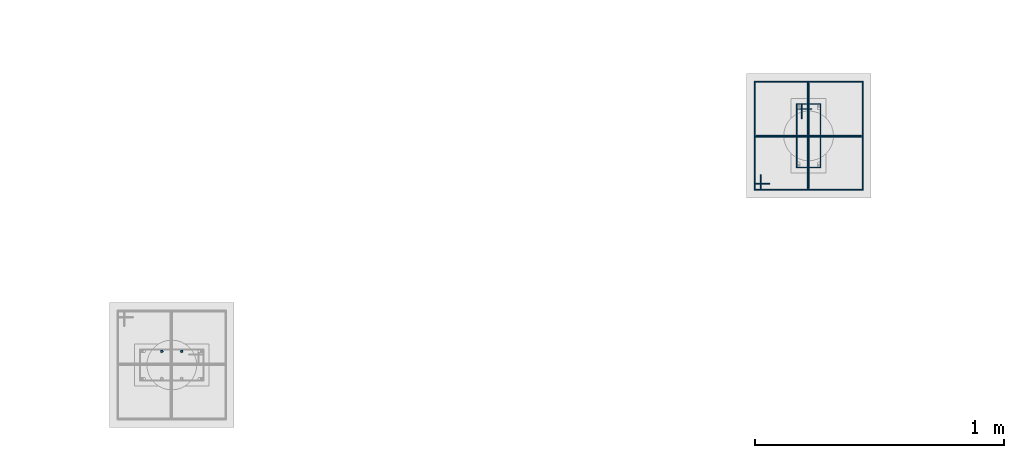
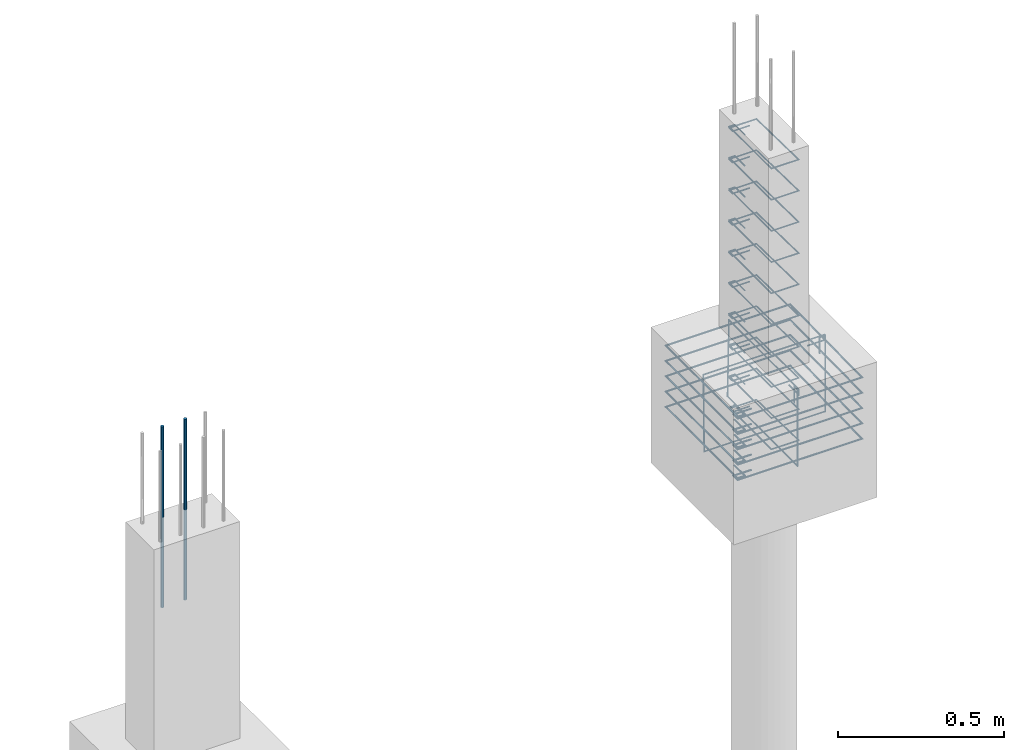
# One storey, part 112 of 119: 19 reinforcing bars.
"""IFC4 building model written with IfcOpenShell, lengths in centimetres."""

from ifc_helpers import new_model, entity, si_unit, derived_unit, frame, origin_with_axes, place, context, project, spatial, source, transform, mapped, element, save


model = new_model("IFC4")

# Units and contexts
model_context = context("Model", 3, precision=1e-05, world=origin_with_axes(), identifier="Body")
ifc_project = project(units=[si_unit("LENGTHUNIT", "METRE", prefix="CENTI"), si_unit("VOLUMEUNIT", "CUBIC_METRE"), si_unit("AREAUNIT", "SQUARE_METRE"), si_unit("POWERUNIT", "WATT"), si_unit("LUMINOUSFLUXUNIT", "LUMEN"), si_unit("ELECTRICCURRENTUNIT", "AMPERE"), si_unit("PRESSUREUNIT", "PASCAL", prefix="KILO"), si_unit("MASSUNIT", "GRAM", prefix="KILO"), si_unit("PLANEANGLEUNIT", "RADIAN"), derived_unit("VOLUMETRICFLOWRATEUNIT", [(si_unit("LENGTHUNIT", "METRE"), 3), (si_unit("TIMEUNIT", "SECOND"), -1)])], contexts=[model_context])

# Site, building, storey
site_placement = place(None, frame((-4000.0, 0.0, 0.0), z_axis=(0.0, 0.0, 1.0), x_axis=(1.0, 0.0, 0.0)))
site = spatial("IfcSite", under=ifc_project, at=site_placement, Name="PADRÃO")
building_placement = place(site_placement, frame((0.0, 0.0, -14.0)))
building = spatial("IfcBuilding", under=site, at=building_placement, Name="CRECHE PRÉ-ESCOLA TIPO 2")
storey_placement = place(building_placement, origin_with_axes())
storey = spatial("IfcBuildingStorey", under=building, at=storey_placement, Name="FUNDAÇÃO", CompositionType="ELEMENT", Elevation=-14.0)

# Reinforcing bars
shared_shape_1 = source(origin_with_axes(), model_context, "Body", "AdvancedSweptSolid", [
    entity("IfcSweptDiskSolid", entity("IfcCompositeCurve", [entity("IfcCompositeCurveSegment", "CONTINUOUS", True, entity("IfcPolyline", [entity("IfcCartesianPoint", [4.25, 21.75, 0.0]), entity("IfcCartesianPoint", [4.25, 27.75, 0.0])])), entity("IfcCompositeCurveSegment", "CONTINUOUS", True, entity("IfcPolyline", [entity("IfcCartesianPoint", [4.25, 27.75, 0.0]), entity("IfcCartesianPoint", [2.25, 27.75, 0.0])])), entity("IfcCompositeCurveSegment", "CONTINUOUS", True, entity("IfcPolyline", [entity("IfcCartesianPoint", [2.25, 27.75, 0.0]), entity("IfcCartesianPoint", [2.25, 2.25, 0.0])])), entity("IfcCompositeCurveSegment", "CONTINUOUS", True, entity("IfcPolyline", [entity("IfcCartesianPoint", [2.25, 2.25, 0.0]), entity("IfcCartesianPoint", [11.75, 2.25, 0.0])])), entity("IfcCompositeCurveSegment", "CONTINUOUS", True, entity("IfcPolyline", [entity("IfcCartesianPoint", [11.75, 2.25, 0.0]), entity("IfcCartesianPoint", [11.75, 27.75, -0.5])])), entity("IfcCompositeCurveSegment", "CONTINUOUS", True, entity("IfcPolyline", [entity("IfcCartesianPoint", [11.75, 27.75, -0.5]), entity("IfcCartesianPoint", [2.25, 27.75, -0.5])])), entity("IfcCompositeCurveSegment", "CONTINUOUS", True, entity("IfcPolyline", [entity("IfcCartesianPoint", [2.25, 27.75, -0.5]), entity("IfcCartesianPoint", [2.25, 25.75, -0.5])])), entity("IfcCompositeCurveSegment", "CONTINUOUS", True, entity("IfcPolyline", [entity("IfcCartesianPoint", [2.25, 25.75, -0.5]), entity("IfcCartesianPoint", [8.25, 25.75, -0.5])]))], False), 0.25),
])
for number, where, z_axis, x_axis, name in (
    (1, (2515.5, 4062.02, -109.25), (0.0, 0.0, 1.0), (1.0, 0.0, 0.0), "P20 - Estribo"),
    (2, (2515.5, 4062.02, -28.75), (0.0, 0.0, 1.0), (1.0, 0.0, 0.0), "P20 - Estribo"),
    (3, (2515.5, 4062.02, -40.25), (0.0, 0.0, 1.0), (1.0, 0.0, 0.0), "P20 - Estribo"),
    (4, (2515.5, 4062.02, -51.75), (0.0, 0.0, 1.0), (1.0, 0.0, 0.0), "P20 - Estribo"),
    (5, (2515.5, 4062.02, -63.25), (0.0, 0.0, 1.0), (1.0, 0.0, 0.0), "P20 - Estribo"),
    (6, (2515.5, 4062.02, -74.75), (0.0, 0.0, 1.0), (1.0, 0.0, 0.0), "P20 - Estribo"),
    (7, (2515.5, 4062.02, -5.75), (0.0, 0.0, 1.0), (1.0, 0.0, 0.0), "P20 - Estribo"),
    (8, (2515.5, 4062.02, -86.25), (0.0, 0.0, 1.0), (1.0, 0.0, 0.0), "P20 - Estribo"),
    (9, (2515.5, 4062.02, -97.75), (0.0, 0.0, 1.0), (1.0, 0.0, 0.0), "P20 - Estribo"),
    (10, (2515.5, 4062.02, -17.25), (0.0, 0.0, 1.0), (1.0, 0.0, 0.0), "P20 - Estribo"),
):
    element("IfcReinforcingBar", number, at=place(storey_placement, frame(where, z_axis=z_axis, x_axis=x_axis)), inside=storey, Name=name, BarLength=0.0, CrossSectionArea=1.9634954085e-05, NominalDiameter=0.5, PredefinedType="MAIN", context=model_context, shape_type="MappedRepresentation", body=[
        mapped(shared_shape_1, transform((0.0, 0.0, 0.0), scale=1.0)),
    ])
shared_shape_2 = source(origin_with_axes(), model_context, "Body", "AdvancedSweptSolid", [
    entity("IfcSweptDiskSolid", entity("IfcCompositeCurve", [entity("IfcCompositeCurveSegment", "CONTINUOUS", True, entity("IfcPolyline", [entity("IfcCartesianPoint", [2507.075, 4057.855, 0.0]), entity("IfcCartesianPoint", [2500.815, 4057.855, 0.0])])), entity("IfcCompositeCurveSegment", "CONTINUOUS", True, entity("IfcPolyline", [entity("IfcCartesianPoint", [2500.815, 4057.855, 0.0]), entity("IfcCartesianPoint", [2500.815, 4055.335, 0.0])])), entity("IfcCompositeCurveSegment", "CONTINUOUS", True, entity("IfcPolyline", [entity("IfcCartesianPoint", [2500.815, 4055.335, 0.0]), entity("IfcCartesianPoint", [2544.185, 4055.335, 0.0])])), entity("IfcCompositeCurveSegment", "CONTINUOUS", True, entity("IfcPolyline", [entity("IfcCartesianPoint", [2544.185, 4055.335, 0.0]), entity("IfcCartesianPoint", [2544.185, 4098.705, 0.63])])), entity("IfcCompositeCurveSegment", "CONTINUOUS", True, entity("IfcPolyline", [entity("IfcCartesianPoint", [2544.185, 4098.705, 0.63]), entity("IfcCartesianPoint", [2500.815, 4098.705, 0.63])])), entity("IfcCompositeCurveSegment", "CONTINUOUS", True, entity("IfcPolyline", [entity("IfcCartesianPoint", [2500.815, 4098.705, 0.63]), entity("IfcCartesianPoint", [2500.815, 4055.335, 0.63])])), entity("IfcCompositeCurveSegment", "CONTINUOUS", True, entity("IfcPolyline", [entity("IfcCartesianPoint", [2500.815, 4055.335, 0.63]), entity("IfcCartesianPoint", [2503.335, 4055.335, 0.63])])), entity("IfcCompositeCurveSegment", "CONTINUOUS", True, entity("IfcPolyline", [entity("IfcCartesianPoint", [2503.335, 4055.335, 0.63]), entity("IfcCartesianPoint", [2503.335, 4061.595, 0.63])]))], False), 0.315),
])
for number, where, z_axis, x_axis, name in (
    (11, (0.0, 0.0, -109.175), (0.0, 0.0, 1.0), (1.0, 0.0, 0.0), "P20 - Blocos (estribos)"),
    (12, (0.0, 0.0, -86.575), (0.0, 0.0, 1.0), (1.0, 0.0, 0.0), "P20 - Blocos (estribos)"),
    (13, (0.0, 0.0, -92.225), (0.0, 0.0, 1.0), (1.0, 0.0, 0.0), "P20 - Blocos (estribos)"),
    (14, (0.0, 0.0, -97.875), (0.0, 0.0, 1.0), (1.0, 0.0, 0.0), "P20 - Blocos (estribos)"),
    (15, (0.0, 0.0, -103.525), (0.0, 0.0, 1.0), (1.0, 0.0, 0.0), "P20 - Blocos (estribos)"),
):
    element("IfcReinforcingBar", number, at=place(storey_placement, frame(where, z_axis=z_axis, x_axis=x_axis)), inside=storey, Name=name, BarLength=0.0, CrossSectionArea=3.1172453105e-05, NominalDiameter=0.63, PredefinedType="MAIN", context=model_context, shape_type="MappedRepresentation", body=[
        mapped(shared_shape_2, transform((0.0, 0.0, 0.0), scale=1.0)),
    ])
shared_shape_3 = source(origin_with_axes(), model_context, "Body", "AdvancedSweptSolid", [
    entity("IfcSweptDiskSolid", entity("IfcCompositeCurve", [entity("IfcCompositeCurveSegment", "CONTINUOUS", True, entity("IfcPolyline", [entity("IfcCartesianPoint", [-15.12, -12.0, 0.0]), entity("IfcCartesianPoint", [-21.12, -12.0, 0.0])])), entity("IfcCompositeCurveSegment", "CONTINUOUS", True, entity("IfcPolyline", [entity("IfcCartesianPoint", [-21.12, -12.0, 0.0]), entity("IfcCartesianPoint", [-21.12, -14.0, 0.0])])), entity("IfcCompositeCurveSegment", "CONTINUOUS", True, entity("IfcPolyline", [entity("IfcCartesianPoint", [-21.12, -14.0, 0.0]), entity("IfcCartesianPoint", [21.12, -14.0, 0.0])])), entity("IfcCompositeCurveSegment", "CONTINUOUS", True, entity("IfcPolyline", [entity("IfcCartesianPoint", [21.12, -14.0, 0.0]), entity("IfcCartesianPoint", [21.12, 14.0, 0.5])])), entity("IfcCompositeCurveSegment", "CONTINUOUS", True, entity("IfcPolyline", [entity("IfcCartesianPoint", [21.12, 14.0, 0.5]), entity("IfcCartesianPoint", [-21.12, 14.0, 0.5])])), entity("IfcCompositeCurveSegment", "CONTINUOUS", True, entity("IfcPolyline", [entity("IfcCartesianPoint", [-21.12, 14.0, 0.5]), entity("IfcCartesianPoint", [-21.12, -14.0, 0.5])])), entity("IfcCompositeCurveSegment", "CONTINUOUS", True, entity("IfcPolyline", [entity("IfcCartesianPoint", [-21.12, -14.0, 0.5]), entity("IfcCartesianPoint", [-19.12, -14.0, 0.5])])), entity("IfcCompositeCurveSegment", "CONTINUOUS", True, entity("IfcPolyline", [entity("IfcCartesianPoint", [-19.12, -14.0, 0.5]), entity("IfcCartesianPoint", [-19.12, -8.0, 0.5])]))], False), 0.25),
])
reinforcing_bar_1_placement = place(storey_placement, frame((2522.5, 4077.02, -97.75), z_axis=(-1.0, 0.0, 0.0), x_axis=(0.0, 1.0, 0.0)))
element("IfcReinforcingBar", 16, at=reinforcing_bar_1_placement, inside=storey, Name="P20 - Blocos (estribos)", BarLength=0.0, CrossSectionArea=1.9634954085e-05, NominalDiameter=0.5, PredefinedType="MAIN", context=model_context, shape_type="MappedRepresentation", body=[
    mapped(shared_shape_3, transform((0.0, 0.0, 0.0), scale=1.0)),
])
shared_shape_4 = source(origin_with_axes(), model_context, "Body", "AdvancedSweptSolid", [
    entity("IfcSweptDiskSolid", entity("IfcCompositeCurve", [entity("IfcCompositeCurveSegment", "CONTINUOUS", True, entity("IfcPolyline", [entity("IfcCartesianPoint", [-15.12, -12.0, 0.0]), entity("IfcCartesianPoint", [-21.12, -12.0, 0.0])])), entity("IfcCompositeCurveSegment", "CONTINUOUS", True, entity("IfcPolyline", [entity("IfcCartesianPoint", [-21.12, -12.0, 0.0]), entity("IfcCartesianPoint", [-21.12, -14.0, 0.0])])), entity("IfcCompositeCurveSegment", "CONTINUOUS", True, entity("IfcPolyline", [entity("IfcCartesianPoint", [-21.12, -14.0, 0.0]), entity("IfcCartesianPoint", [21.12, -14.0, 0.0])])), entity("IfcCompositeCurveSegment", "CONTINUOUS", True, entity("IfcPolyline", [entity("IfcCartesianPoint", [21.12, -14.0, 0.0]), entity("IfcCartesianPoint", [21.12, 14.0, 0.5])])), entity("IfcCompositeCurveSegment", "CONTINUOUS", True, entity("IfcPolyline", [entity("IfcCartesianPoint", [21.12, 14.0, 0.5]), entity("IfcCartesianPoint", [-21.12, 14.0, 0.5])])), entity("IfcCompositeCurveSegment", "CONTINUOUS", True, entity("IfcPolyline", [entity("IfcCartesianPoint", [-21.12, 14.0, 0.5]), entity("IfcCartesianPoint", [-21.12, -14.0, 0.5])])), entity("IfcCompositeCurveSegment", "CONTINUOUS", True, entity("IfcPolyline", [entity("IfcCartesianPoint", [-21.12, -14.0, 0.5]), entity("IfcCartesianPoint", [-19.12, -14.0, 0.5])])), entity("IfcCompositeCurveSegment", "CONTINUOUS", True, entity("IfcPolyline", [entity("IfcCartesianPoint", [-19.12, -14.0, 0.5]), entity("IfcCartesianPoint", [-19.12, -8.0, 0.5])]))], False), 0.25),
])
reinforcing_bar_2_placement = place(storey_placement, frame((2522.5, 4077.02, -97.75), z_axis=(0.0, -1.0, 0.0), x_axis=(-1.0, 0.0, 0.0)))
element("IfcReinforcingBar", 17, at=reinforcing_bar_2_placement, inside=storey, Name="P20 - Blocos (estribos)", BarLength=0.0, CrossSectionArea=1.9634954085e-05, NominalDiameter=0.5, PredefinedType="MAIN", context=model_context, shape_type="MappedRepresentation", body=[
    mapped(shared_shape_4, transform((0.0, 0.0, 0.0), scale=1.0)),
])
for number, where, z_axis, x_axis, name in (
    (18, (2262.76, 3990.5, 33.3573001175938), (0.0, 0.0, 1.0), (1.0, 0.0, 0.0), "P26 - Longitudinal"),
    (19, (2270.76, 3990.5, 33.3573001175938), (0.0, 0.0, 1.0), (1.0, 0.0, 0.0), "P26 - Longitudinal"),
):
    element("IfcReinforcingBar", number, at=place(storey_placement, frame(where, z_axis=z_axis, x_axis=x_axis)), inside=storey, Name=name, BarLength=0.0, CrossSectionArea=7.853981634e-05, NominalDiameter=1.0, PredefinedType="MAIN", context=model_context, shape_type="AdvancedSweptSolid", body=[
        entity("IfcSweptDiskSolid", entity("IfcCompositeCurve", [entity("IfcCompositeCurveSegment", "CONTINUOUS", True, entity("IfcPolyline", [entity("IfcCartesianPoint", [0.0, 0.0, -66.7146002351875]), entity("IfcCartesianPoint", [0.0, 0.0, 0.0])]))], False), 0.5),
    ])

save(model, "model.ifc")
